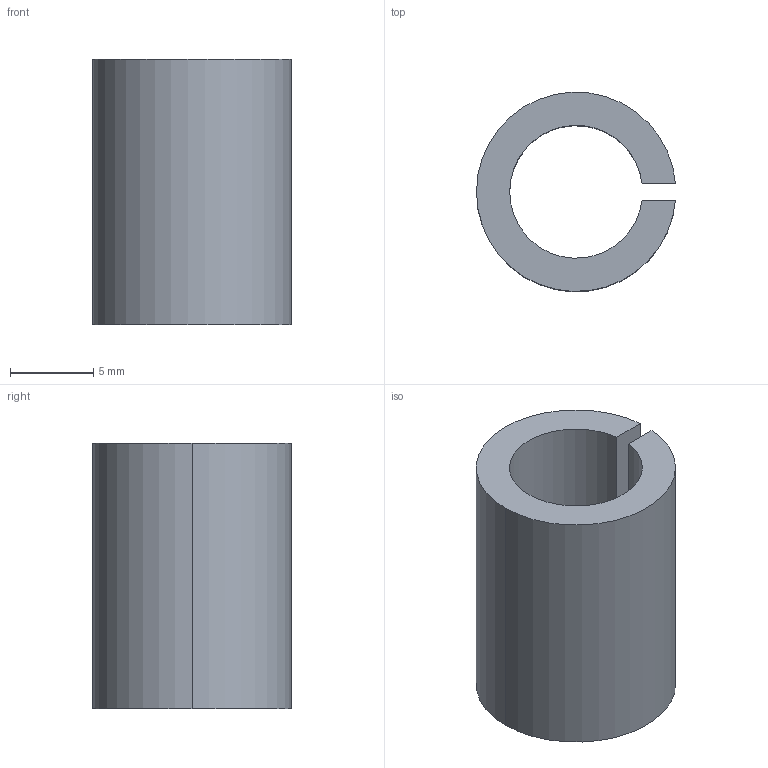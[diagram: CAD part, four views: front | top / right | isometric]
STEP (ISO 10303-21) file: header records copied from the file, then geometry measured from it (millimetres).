
FILE_DESCRIPTION (( 'STEP AP214' ), '1' );
FILE_NAME ('SBND-1208.STEP', '2019-11-11T05:49:58', ( '微软用户' ), ( '微软中国' ), 'SwSTEP 2.0', 'SolidWorks 2016', '' );
FILE_SCHEMA (( 'AUTOMOTIVE_DESIGN' ));
Length unit declared in the file: millimetre
Products named in the file (1): SBND-1208
Bounding box: 11.98 x 11.99 x 16 mm (x, y, z)
Volume: 973.3 mm3; surface area: 1159.2 mm2
Topology: 1 solids, 1 shells, 8 faces, 18 edges, 12 vertices
Faces by surface type: cylinder 4, plane 4
Entity records: 264 total; most frequent: DIRECTION 44, CARTESIAN_POINT 39, ORIENTED_EDGE 36, EDGE_CURVE 18, AXIS2_PLACEMENT_3D 17, VERTEX_POINT 12, VECTOR 10, LINE 10
